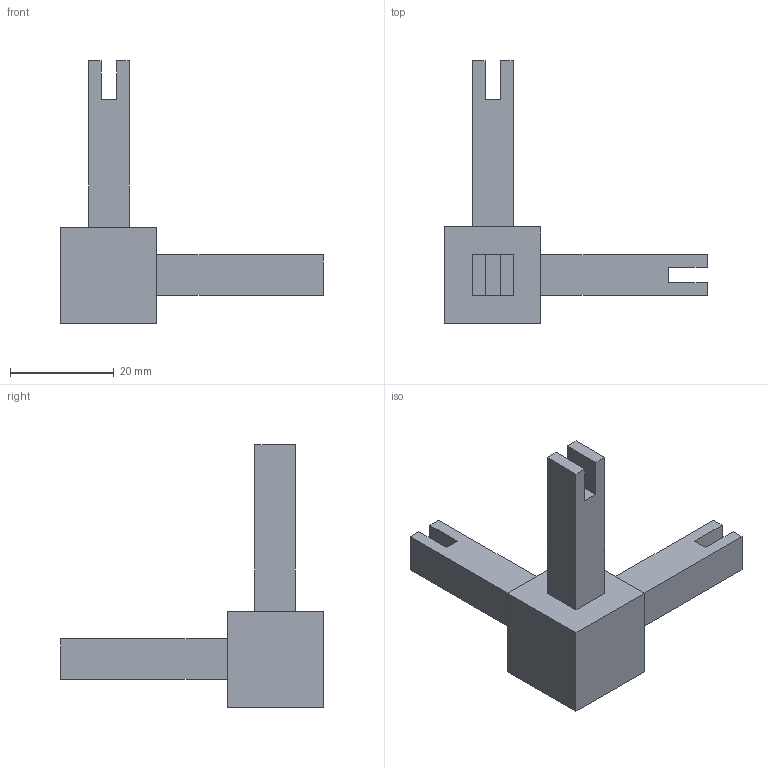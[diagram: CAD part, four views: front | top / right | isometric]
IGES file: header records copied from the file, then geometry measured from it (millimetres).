
Start section: Data from Parasolid IGES Translator 20.0.26, Copyright(c) 2006 Siemens P LM Software. All Rights Reserved.
Global section: file name: 9298829.igs; native system: By Siemens PLM Incorporated; preprocessor: XPlus GENERIC/IGES 20.0.26; author: Noname; organization: Noname; date: 20210826.184015; units: millimetre
Bounding box: 50.5 x 50.5 x 50.5 mm (x, y, z)
Surface area: 5264.7 mm2 (no closed solid volume)
Topology: 0 solids, 0 shells, 33 faces, 168 edges, 168 vertices
Faces by surface type: extrusion 33
